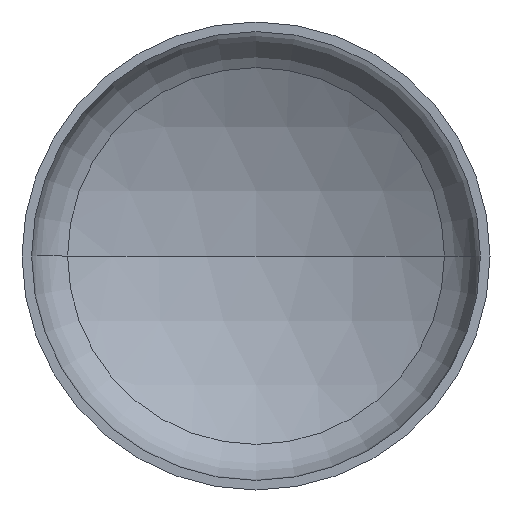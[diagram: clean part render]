
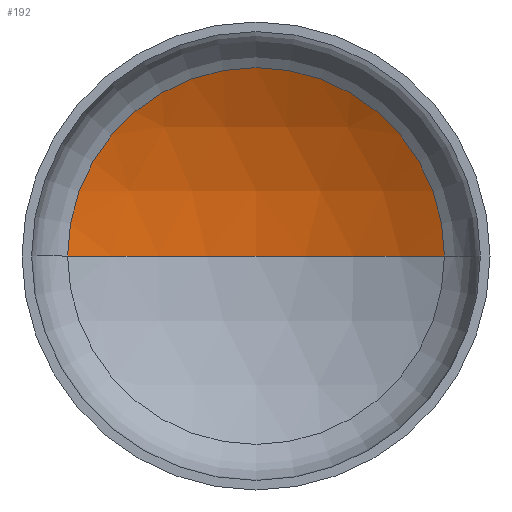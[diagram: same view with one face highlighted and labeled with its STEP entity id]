
A CAD part, front view. The second image highlights one B-rep face of the part: STEP entity #192.
In plain terms, the highlighted spherical face has radius 1600 mm.
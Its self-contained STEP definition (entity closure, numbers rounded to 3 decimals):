
#2 = AXIS2_PLACEMENT_3D ( 'NONE', #100, #108, #305 ) ;
#5 = AXIS2_PLACEMENT_3D ( 'NONE', #233, #389, #391 ) ;
#9 = AXIS2_PLACEMENT_3D ( 'NONE', #71, #347, #169 ) ;
#12 = ORIENTED_EDGE ( 'NONE', *, *, #376, .T. ) ;
#26 = EDGE_LOOP ( 'NONE', ( #103, #12, #98 ) ) ;
#46 = AXIS2_PLACEMENT_3D ( 'NONE', #194, #144, #315 ) ;
#56 = VERTEX_POINT ( 'NONE', #256 ) ;
#60 = VERTEX_POINT ( 'NONE', #238 ) ;
#71 = CARTESIAN_POINT ( 'NONE',  ( 0., -984.854, 0. ) ) ;
#98 = ORIENTED_EDGE ( 'NONE', *, *, #377, .T. ) ;
#100 = CARTESIAN_POINT ( 'NONE',  ( 0., -984.854, 0. ) ) ;
#103 = ORIENTED_EDGE ( 'NONE', *, *, #356, .F. ) ;
#108 = DIRECTION ( 'NONE',  ( 0., 0., -1. ) ) ;
#144 = DIRECTION ( 'NONE',  ( 0., 0., -1. ) ) ;
#148 = CARTESIAN_POINT ( 'NONE',  ( 804.961, 397.911, 0. ) ) ;
#169 = DIRECTION ( 'NONE',  ( 1., 0., 0. ) ) ;
#192 = ADVANCED_FACE ( 'NONE', ( #382 ), #199, .F. ) ;
#194 = CARTESIAN_POINT ( 'NONE',  ( 0., -984.854, 0. ) ) ;
#199 = SPHERICAL_SURFACE ( 'NONE', #46, 1600. ) ;
#224 = CIRCLE ( 'NONE', #5, 804.961 ) ;
#232 = CIRCLE ( 'NONE', #9, 1600. ) ;
#233 = CARTESIAN_POINT ( 'NONE',  ( 0., 397.911, 0. ) ) ;
#238 = CARTESIAN_POINT ( 'NONE',  ( -804.961, 397.911, 0. ) ) ;
#256 = CARTESIAN_POINT ( 'NONE',  ( 0., 615.146, 0. ) ) ;
#305 = DIRECTION ( 'NONE',  ( -1., 0., 0. ) ) ;
#315 = DIRECTION ( 'NONE',  ( -1., 0., 0. ) ) ;
#347 = DIRECTION ( 'NONE',  ( 0., 0., 1. ) ) ;
#356 = EDGE_CURVE ( 'NONE', #56, #60, #232, .T. ) ;
#376 = EDGE_CURVE ( 'NONE', #56, #406, #397, .T. ) ;
#377 = EDGE_CURVE ( 'NONE', #406, #60, #224, .T. ) ;
#382 = FACE_OUTER_BOUND ( 'NONE', #26, .T. ) ;
#389 = DIRECTION ( 'NONE',  ( 0., -1., 0. ) ) ;
#391 = DIRECTION ( 'NONE',  ( 1., 0., 0. ) ) ;
#397 = CIRCLE ( 'NONE', #2, 1600. ) ;
#406 = VERTEX_POINT ( 'NONE', #148 ) ;
